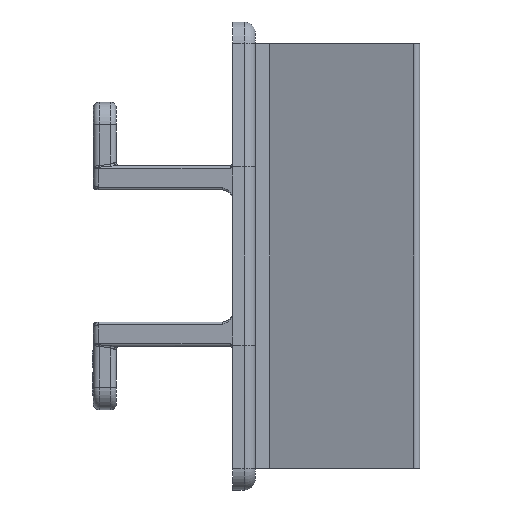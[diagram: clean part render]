
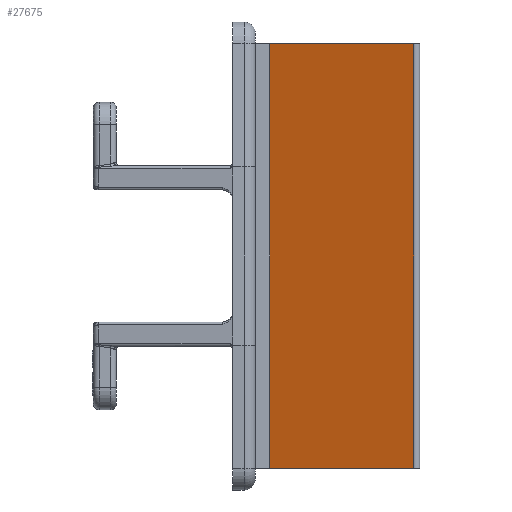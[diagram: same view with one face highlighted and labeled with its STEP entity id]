
A CAD part, front view. The second image highlights one B-rep face of the part: STEP entity #27675.
In plain terms, the highlighted planar face has unit normal (-0.34, -0.941, 0).
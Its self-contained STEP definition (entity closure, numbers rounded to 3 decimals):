
#9598=DIRECTION('',(-0.941,0.34,0.));
#9599=VECTOR('',#9598,27.106);
#9600=CARTESIAN_POINT('',(31.975,-21.705,-37.5));
#9601=LINE('',#9600,#9599);
#9665=DIRECTION('',(0.,0.,-1.));
#9666=VECTOR('',#9665,75.);
#9667=CARTESIAN_POINT('',(6.48,-12.5,37.5));
#9668=LINE('',#9667,#9666);
#9736=DIRECTION('',(-0.941,0.34,0.));
#9737=VECTOR('',#9736,27.106);
#9738=CARTESIAN_POINT('',(31.975,-21.705,37.5));
#9739=LINE('',#9738,#9737);
#9800=DIRECTION('',(0.,0.,-1.));
#9801=VECTOR('',#9800,75.);
#9802=CARTESIAN_POINT('',(31.975,-21.705,37.5));
#9803=LINE('',#9802,#9801);
#12882=CARTESIAN_POINT('',(31.975,-21.705,37.5));
#12883=VERTEX_POINT('',#12882);
#12884=CARTESIAN_POINT('',(6.48,-12.5,37.5));
#12885=VERTEX_POINT('',#12884);
#12914=CARTESIAN_POINT('',(31.975,-21.705,-37.5));
#12915=VERTEX_POINT('',#12914);
#12916=CARTESIAN_POINT('',(6.48,-12.5,-37.5));
#12917=VERTEX_POINT('',#12916);
#27664=CARTESIAN_POINT('',(31.975,-21.705,37.5));
#27665=DIRECTION('',(-0.34,-0.941,0.));
#27666=DIRECTION('',(-0.941,0.34,0.));
#27667=AXIS2_PLACEMENT_3D('',#27664,#27665,#27666);
#27668=PLANE('',#27667);
#27669=ORIENTED_EDGE('',*,*,#27475,.F.);
#27670=ORIENTED_EDGE('',*,*,#27659,.T.);
#27671=ORIENTED_EDGE('',*,*,#27394,.T.);
#27672=ORIENTED_EDGE('',*,*,#27435,.F.);
#27673=EDGE_LOOP('',(#27669,#27670,#27671,#27672));
#27674=FACE_OUTER_BOUND('',#27673,.F.);
#27675=ADVANCED_FACE('',(#27674),#27668,.T.);
#27394=EDGE_CURVE('',#12915,#12917,#9601,.T.);
#27435=EDGE_CURVE('',#12885,#12917,#9668,.T.);
#27475=EDGE_CURVE('',#12883,#12885,#9739,.T.);
#27659=EDGE_CURVE('',#12883,#12915,#9803,.T.);
